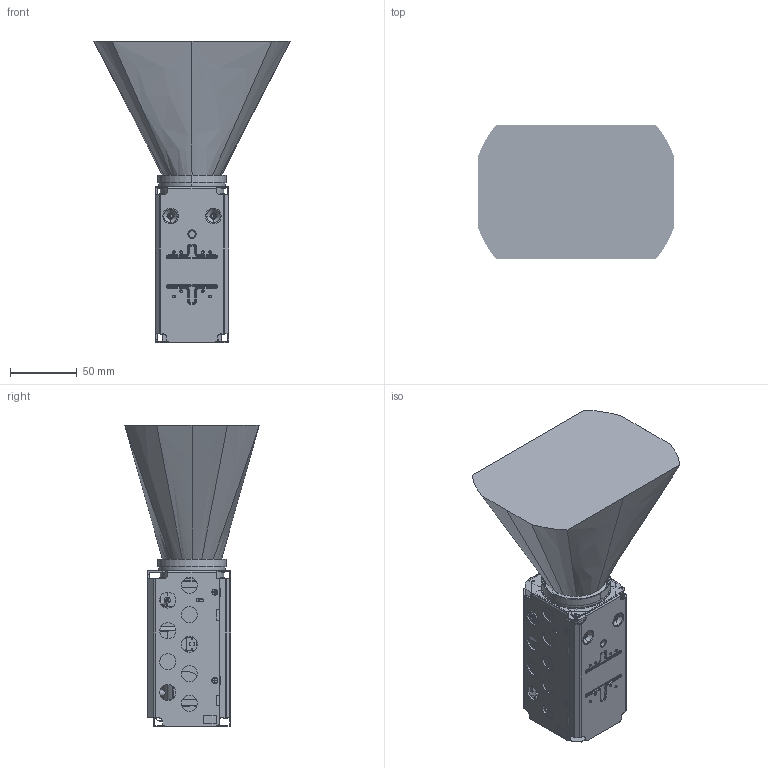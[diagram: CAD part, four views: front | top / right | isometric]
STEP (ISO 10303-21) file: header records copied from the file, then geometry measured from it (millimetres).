
FILE_DESCRIPTION(('CATIA V5 STEP Exchange'),'2;1');
FILE_NAME('\\Cadsys-srv215\CATIADATAS\個人\watanabe\RE001B0000\RE001B0000-A01-KanseihinASSY.stp','2019-04-25T05:53:24+00:00',('none'),('none'),'CATIA Version 5-6 Release 2017 SP5 HF12','CATIA V5 STEP AP203','none');
FILE_SCHEMA(('CONFIG_CONTROL_DESIGN'));
Products named in the file (4): RE001B0000-A01-完成品ASSY; RE001B0000-A02-GSカメラモジュール; 00_ZMAX_35_ASM; 30_ANGLE-FIX_PL_ASM
Assembly tree (40 placements, depth 5):
  RE001B0000-A01-完成品ASSY
    RE001B0000-A02-GSカメラモジュール
      00_ZMAX_35_ASM
        #73
        #73773
        #89067
        30_ANGLE-FIX_PL_ASM
          #90880
          #94260  x3
          #94751
          #95416
        #96070  x2
        #96245  x3
        #98915
        #126591  x4
        #129043
        #187177  x3
        #189258
        #189854
        #190029
        #190204
        #190643
        #196642  x4
        #198702
      #199347
      #199654
    #200527
    #201368
Bounding box: 146.57 x 100.41 x 225.05 mm (x, y, z)
Volume: 724355.8 mm3; surface area: 179336.8 mm2
Topology: 38 solids, 467 shells, 6200 faces, 18045 edges, 12851 vertices
Faces by surface type: plane 4532, cylinder 1145, torus 264, cone 224, bspline 30, extrusion 3, sphere 2
Entity records: 201545 total; most frequent: CARTESIAN_POINT 59768, ORIENTED_EDGE 28441, DIRECTION 25127, EDGE_CURVE 16044, VECTOR 11757, LINE 11754, VERTEX_POINT 11527, AXIS2_PLACEMENT_3D 7901
